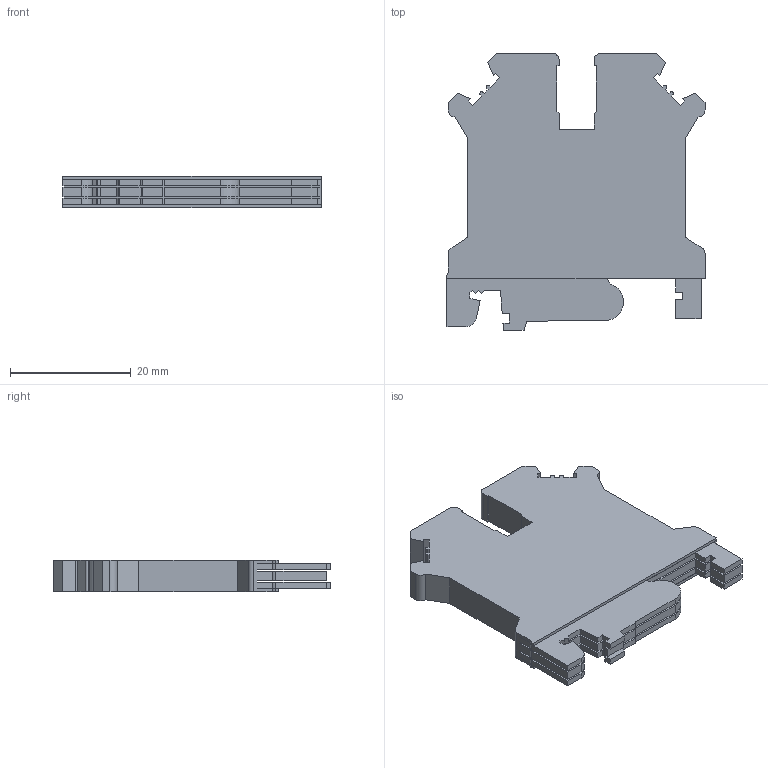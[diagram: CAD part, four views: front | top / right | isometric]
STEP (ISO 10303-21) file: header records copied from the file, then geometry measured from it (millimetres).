
FILE_DESCRIPTION(/* description */ (''),/* implementation_level */ '2;1');
FILE_NAME(/* name */ 'JUT1-2.5PE.stp',/* time_stamp */ '2023-02-14T15:11:00+08:00',/* author */ (''),/* organization */ (''),/* preprocessor_version */ 'ST-DEVELOPER v16.7',/* originating_system */ 'SIEMENS PLM Software NX 12.0',/* authorisation */ '');
FILE_SCHEMA (('AP203_CONFIGURATION_CONTROLLED_3D_DESIGN_OF_MECHANICAL_PARTS_AND_ASSEMBLIES_MIM_LF { 1 0 10303 403 2 1 2}'));
Length unit declared in the file: millimetre
Products named in the file (1): Admi01CC23451nsk
Bounding box: 42.7 x 45.8 x 5.2 mm (x, y, z)
Volume: 7039.2 mm3; surface area: 6412.5 mm2
Topology: 1 solids, 1 shells, 189 faces, 555 edges, 370 vertices
Faces by surface type: plane 166, cylinder 23
Full cylindrical faces by diameter (mm): 4 x2
Entity records: 6287 total; most frequent: CARTESIAN_POINT 1113, ORIENTED_EDGE 1106, DIRECTION 979, EDGE_CURVE 553, LINE 507, VECTOR 507, VERTEX_POINT 370, AXIS2_PLACEMENT_3D 236
